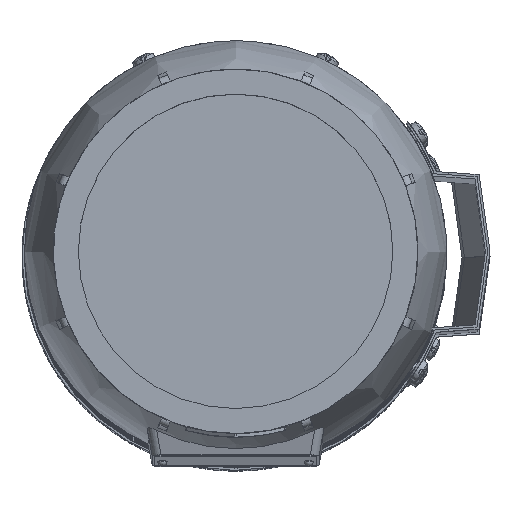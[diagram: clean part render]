
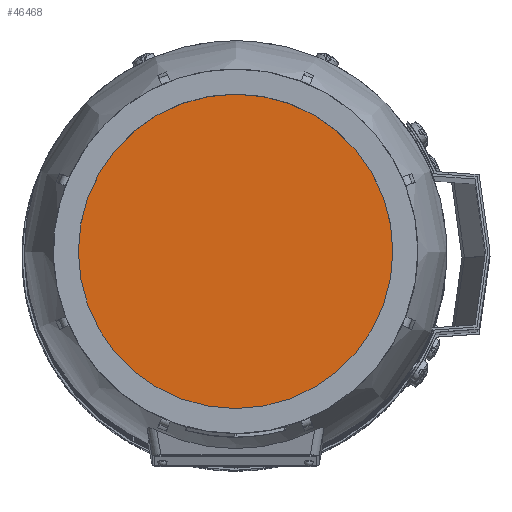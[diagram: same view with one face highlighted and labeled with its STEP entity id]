
A CAD part, top view. The second image highlights one B-rep face of the part: STEP entity #46468.
In plain terms, the highlighted planar face has unit normal (0, 0, 1) as drawn and (0, 1, 0) by its records, which use the part's own axes.
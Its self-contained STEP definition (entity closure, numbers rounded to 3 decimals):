
#9801=ORIENTED_EDGE('',*,*,#23857,.F.);
#23857=EDGE_CURVE('',#30885,#30885,#35615,.T.);
#30885=VERTEX_POINT('',#67082);
#35615=CIRCLE('',#49007,67.736);
#37738=EDGE_LOOP('',(#9801));
#41092=FACE_BOUND('',#37738,.T.);
#44464=PLANE('',#49006);
#46468=ADVANCED_FACE('',(#41092),#44464,.F.);
#49006=AXIS2_PLACEMENT_3D('',#67080,#53599,#53600);
#49007=AXIS2_PLACEMENT_3D('',#67081,#53601,#53602);
#53599=DIRECTION('',(0.,-1.,0.));
#53600=DIRECTION('',(0.,0.,-1.));
#53601=DIRECTION('',(0.,-1.,0.));
#53602=DIRECTION('',(0.,0.,-1.));
#67080=CARTESIAN_POINT('',(0.,154.,0.));
#67081=CARTESIAN_POINT('',(0.,154.,0.));
#67082=CARTESIAN_POINT('',(0.,154.,-67.736));
